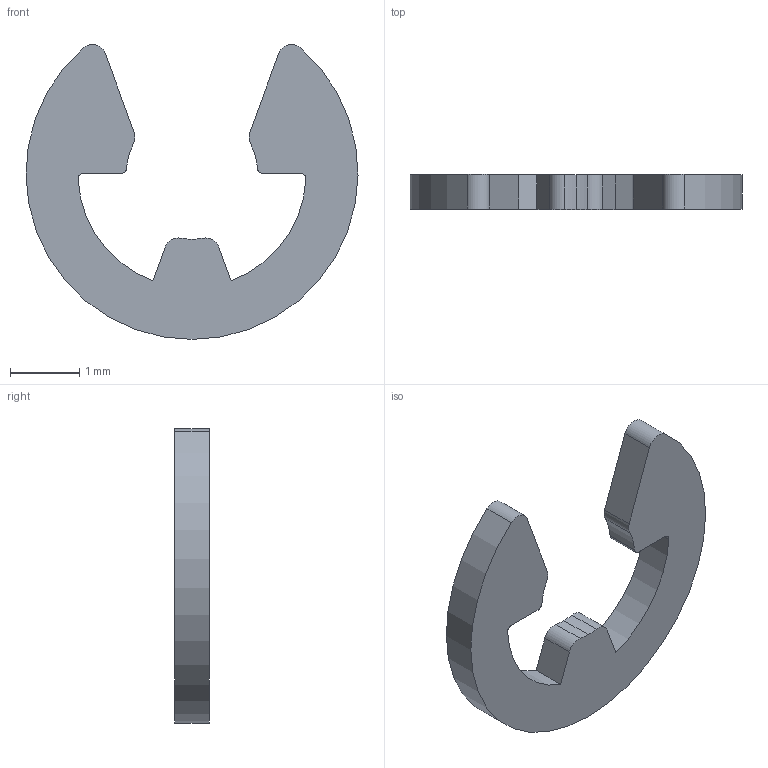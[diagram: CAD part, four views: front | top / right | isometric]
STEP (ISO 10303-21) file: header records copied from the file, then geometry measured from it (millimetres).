
FILE_DESCRIPTION (( 'STEP AP203' ), '1' );
FILE_NAME ('P0382.019-PH.step', '2019-07-25T20:59:27', ( '' ), ( '' ), 'SwSTEP 2.0', 'SolidWorks 2017', '' );
FILE_SCHEMA (( 'CONFIG_CONTROL_DESIGN' ));
Length unit declared in the file: millimetre
Products named in the file (1): P0382.019-PH
Bounding box: 4.8 x 0.5 x 4.26 mm (x, y, z)
Volume: 4.8 mm3; surface area: 30.8 mm2
Topology: 1 solids, 1 shells, 26 faces, 72 edges, 48 vertices
Faces by surface type: cylinder 18, plane 8
Entity records: 929 total; most frequent: DIRECTION 162, CARTESIAN_POINT 147, ORIENTED_EDGE 144, EDGE_CURVE 72, AXIS2_PLACEMENT_3D 63, VERTEX_POINT 48, LINE 36, CIRCLE 36
